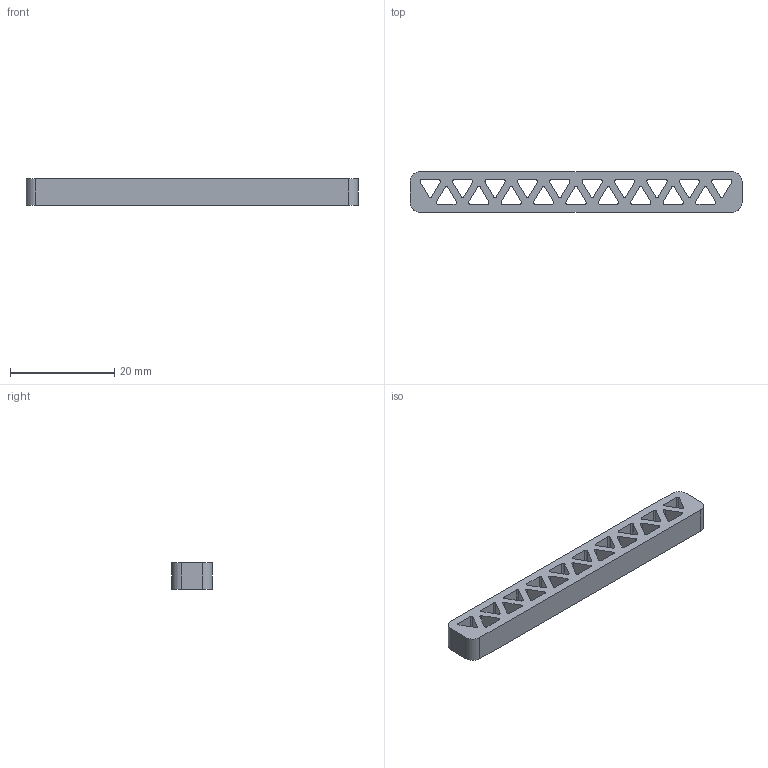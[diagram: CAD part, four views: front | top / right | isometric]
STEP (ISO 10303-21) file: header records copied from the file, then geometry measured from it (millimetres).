
FILE_DESCRIPTION(('CATIA V5 STEP Exchange','CAx-IF Rec.Pracs.--- Model Styling and Organization---1.4--- 2014-01-23'),'2;1');
FILE_NAME('D:\모델\플래그\플래그\일반\07.stp','2026-07-14T16:03:02+00:00',('none'),('none'),'CATIA Version 5-6 Release 2018','CATIA V5 STEP AP214','none');
FILE_SCHEMA(('AUTOMOTIVE_DESIGN { 1 0 10303 214 1 1 1 1 }'));
Length unit declared in the file: millimetre
Products named in the file (1): bulkhead11
Bounding box: 63.78 x 7.8 x 5 mm (x, y, z)
Volume: 1718.2 mm3; surface area: 2503.7 mm2
Topology: 1 solids, 1 shells, 124 faces, 366 edges, 244 vertices
Faces by surface type: plane 63, cylinder 61
Entity records: 4079 total; most frequent: ORIENTED_EDGE 732, CARTESIAN_POINT 718, DIRECTION 580, EDGE_CURVE 366, VECTOR 244, LINE 244, VERTEX_POINT 244, AXIS2_PLACEMENT_3D 230
